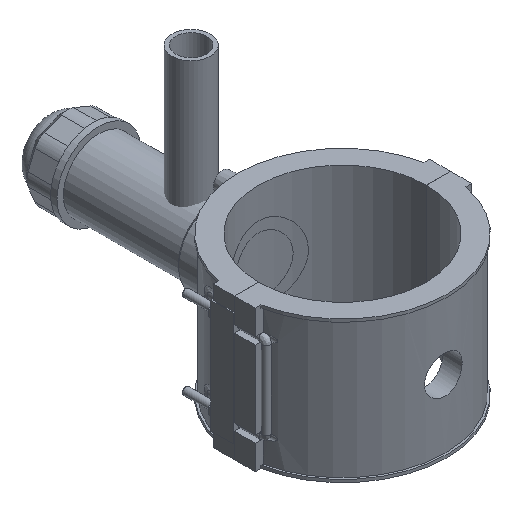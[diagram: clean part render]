
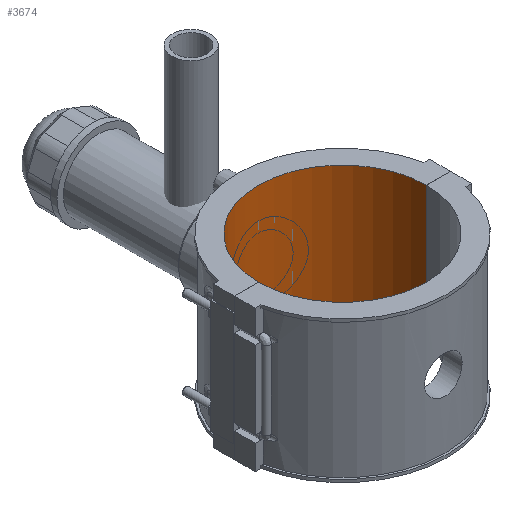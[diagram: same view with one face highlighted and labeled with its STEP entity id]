
A CAD part, isometric view. The second image highlights one B-rep face of the part: STEP entity #3674.
In plain terms, the highlighted cylindrical face has radius 70 mm (diameter 140 mm), a partial arc.
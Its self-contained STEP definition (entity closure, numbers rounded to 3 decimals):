
#271=CIRCLE('',#3981,70.);
#272=CIRCLE('',#3983,70.);
#477=FACE_OUTER_BOUND('',#714,.T.);
#714=EDGE_LOOP('',(#3055,#3056,#3057,#3058));
#983=LINE('',#6689,#1287);
#1017=LINE('',#7008,#1321);
#1287=VECTOR('',#4572,10.);
#1321=VECTOR('',#4708,10.);
#1709=VERTEX_POINT('',#6686);
#1710=VERTEX_POINT('',#6688);
#1745=VERTEX_POINT('',#7005);
#1746=VERTEX_POINT('',#7007);
#2142=EDGE_CURVE('',#1710,#1709,#983,.T.);
#2206=EDGE_CURVE('',#1746,#1745,#1017,.T.);
#2209=EDGE_CURVE('',#1710,#1745,#271,.T.);
#2210=EDGE_CURVE('',#1746,#1709,#272,.T.);
#3055=ORIENTED_EDGE('',*,*,#2206,.T.);
#3056=ORIENTED_EDGE('',*,*,#2209,.F.);
#3057=ORIENTED_EDGE('',*,*,#2142,.T.);
#3058=ORIENTED_EDGE('',*,*,#2210,.F.);
#3529=CYLINDRICAL_SURFACE('',#3984,70.);
#3674=ADVANCED_FACE('',(#477),#3529,.F.);
#3981=AXIS2_PLACEMENT_3D('',#7013,#4713,#4714);
#3983=AXIS2_PLACEMENT_3D('',#7015,#4717,#4718);
#3984=AXIS2_PLACEMENT_3D('',#7017,#4720,#4721);
#4572=DIRECTION('',(0.,0.,-1.));
#4708=DIRECTION('',(0.,0.,1.));
#4713=DIRECTION('center_axis',(0.,0.,-1.));
#4714=DIRECTION('ref_axis',(-1.,0.,0.));
#4717=DIRECTION('center_axis',(0.,0.,1.));
#4718=DIRECTION('ref_axis',(-1.,0.,0.));
#4720=DIRECTION('center_axis',(0.,0.,1.));
#4721=DIRECTION('ref_axis',(-1.,0.,0.));
#6686=CARTESIAN_POINT('',(-70.,0.05,-59.));
#6688=CARTESIAN_POINT('',(-70.,0.05,59.));
#6689=CARTESIAN_POINT('',(-70.,0.05,0.));
#7005=CARTESIAN_POINT('',(70.,0.05,59.));
#7007=CARTESIAN_POINT('',(70.,0.05,-59.));
#7008=CARTESIAN_POINT('',(70.,0.05,0.));
#7013=CARTESIAN_POINT('Origin',(0.,0.,59.));
#7015=CARTESIAN_POINT('Origin',(0.,0.,-59.));
#7017=CARTESIAN_POINT('Origin',(0.,0.,0.));
